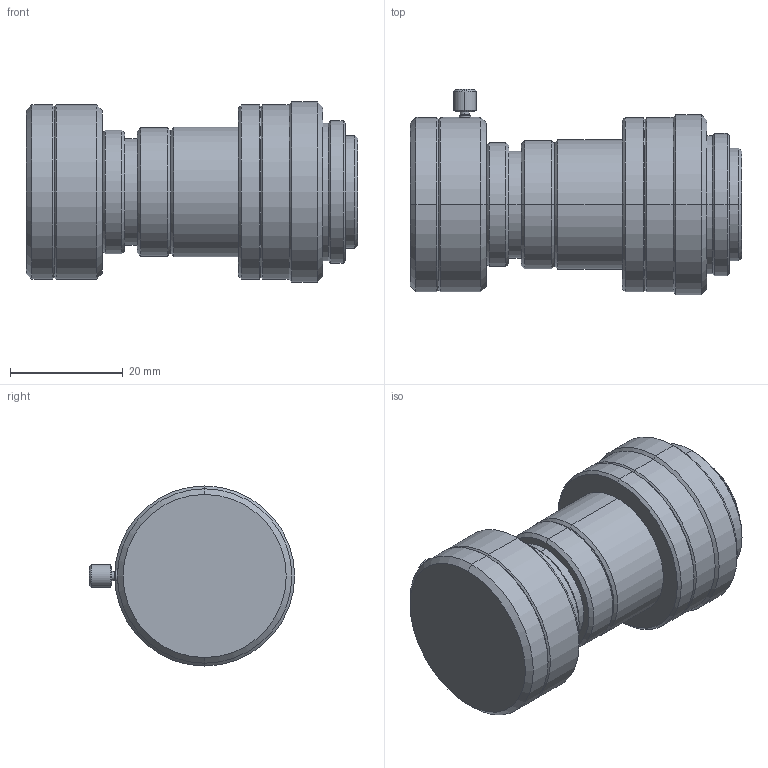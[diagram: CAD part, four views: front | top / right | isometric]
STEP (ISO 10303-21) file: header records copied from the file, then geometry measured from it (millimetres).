
FILE_DESCRIPTION (( 'STEP AP203' ), '1' );
FILE_NAME ('VS-MC024S.STEP', '2019-02-08T02:05:06', ( '' ), ( '' ), 'SwSTEP 2.0', 'SolidWorks 2018', '' );
FILE_SCHEMA (( 'CONFIG_CONTROL_DESIGN' ));
Length unit declared in the file: millimetre
Products named in the file (1): VS-MC024S
Bounding box: 58.9 x 36.5 x 32 mm (x, y, z)
Volume: 33853.2 mm3; surface area: 7430.1 mm2
Topology: 1 solids, 1 shells, 81 faces, 160 edges, 90 vertices
Faces by surface type: cone 40, cylinder 30, plane 11
Entity records: 2167 total; most frequent: DIRECTION 410, CARTESIAN_POINT 364, ORIENTED_EDGE 320, AXIS2_PLACEMENT_3D 170, EDGE_CURVE 160, EDGE_LOOP 90, VERTEX_POINT 90, CIRCLE 88
